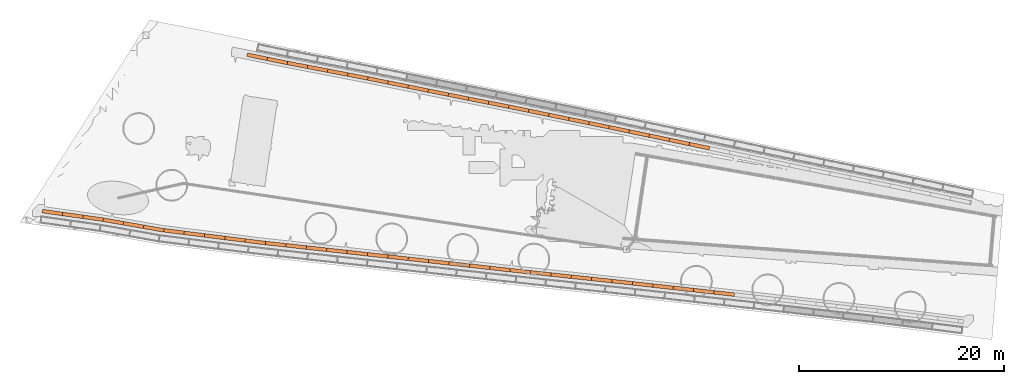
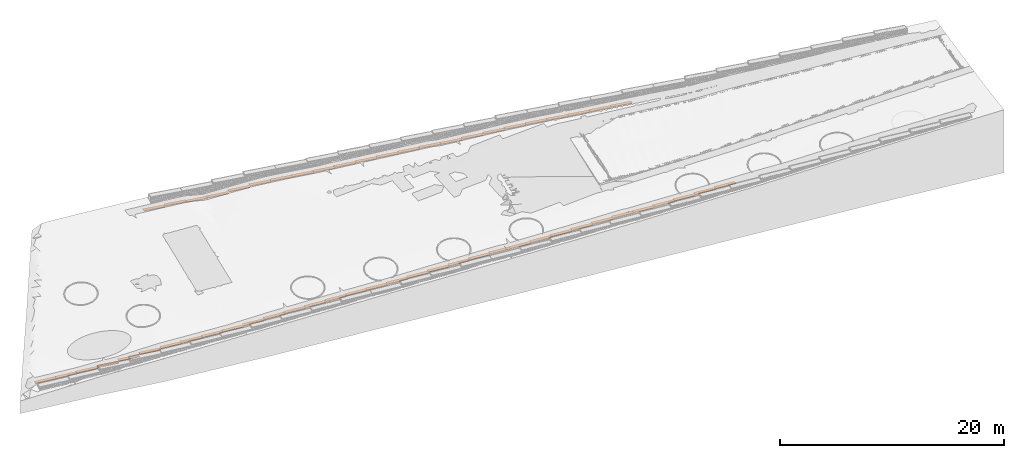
# Not in any storey, part 13 of 33: 57 proxies.
"""IFC4 model written with IfcOpenShell, lengths in metres."""

from ifc_helpers import new_model, si_unit, direction, frame, origin_with_axes, place, context, subcontext, project, spatial, polyline, outline, extrude, material, element, save


model = new_model("IFC4")

# Units and contexts
model_context = context("Model", 3, precision=1e-05, world=origin_with_axes(), true_north=direction((0.0, 1.0)))
body_context = subcontext(model_context, "Body", "Model", "MODEL_VIEW")
ifc_project = project(units=[si_unit("LENGTHUNIT", "METRE"), si_unit("AREAUNIT", "SQUARE_METRE"), si_unit("VOLUMEUNIT", "CUBIC_METRE")], contexts=[model_context])

# Site
site_placement = place(None, origin_with_axes())
site = spatial("IfcSite", under=ifc_project, at=site_placement, Name="Lares · Rua das Mercês · artigo 4771")

# Proxies
ifc_material = material(Name="Brita drenante", Category="stone")
proxy_1_placement = place(site_placement, frame((0.0, 0.0, 13.4738156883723), z_axis=(0.0, 0.0, 1.0), x_axis=(1.0, -1.03767253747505e-17, 0.0)))
element("IfcBuildingElementProxy", 1, at=proxy_1_placement, inside=site, material=ifc_material, Name="Limite north · vala de interceção", ObjectType="Limite north · vala de interceção", PredefinedType="USERDEFINED", context=body_context, shape_type="SweptSolid", body=[
    extrude(outline(polyline([(12.0458830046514, 21.0135119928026), (11.9733673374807, 20.6608911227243), (10.0143625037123, 21.0637559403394), (10.086878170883, 21.4163768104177), (12.0458830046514, 21.0135119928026)])), origin_with_axes(), (0.0, 0.0, 1.0), 0.06),
])
proxy_2_placement = place(site_placement, frame((0.0, 0.0, 13.5828101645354), z_axis=(0.0, 0.0, 1.0), x_axis=(1.0, -1.03767253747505e-17, 0.0)))
element("IfcBuildingElementProxy", 2, at=proxy_2_placement, inside=site, material=ifc_material, Name="Limite north · vala de interceção", ObjectType="Limite north · vala de interceção", PredefinedType="USERDEFINED", context=body_context, shape_type="SweptSolid", body=[
    extrude(outline(polyline([(13.7537541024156, 20.6622922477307), (14.0032633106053, 20.6143063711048), (13.935273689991, 20.2607849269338), (13.684631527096, 20.3089886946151), (13.6823685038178, 20.3094389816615), (11.9733673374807, 20.6608911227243), (12.0458830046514, 21.0135119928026), (13.7537541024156, 20.6622922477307)])), origin_with_axes(), (0.0, 0.0, 1.0), 0.06),
])
proxy_3_placement = place(site_placement, frame((0.0, 0.0, 13.5164708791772), z_axis=(0.0, 0.0, 1.0), x_axis=(1.0, -1.03767253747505e-17, 0.0)))
element("IfcBuildingElementProxy", 3, at=proxy_3_placement, inside=site, material=ifc_material, Name="Limite north · vala de interceção", ObjectType="Limite north · vala de interceção", PredefinedType="USERDEFINED", context=body_context, shape_type="SweptSolid", body=[
    extrude(outline(polyline([(15.9672713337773, 20.2365862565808), (15.899281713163, 19.8830648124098), (13.935273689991, 20.2607849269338), (14.0032633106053, 20.6143063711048), (15.9672713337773, 20.2365862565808)])), origin_with_axes(), (0.0, 0.0, 1.0), 0.06),
])
proxy_4_placement = place(site_placement, frame((0.0, 0.0, 13.558468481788), z_axis=(0.0, 0.0, 1.0), x_axis=(1.0, -1.03767253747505e-17, 0.0)))
element("IfcBuildingElementProxy", 4, at=proxy_4_placement, inside=site, material=ifc_material, Name="Limite north · vala de interceção", ObjectType="Limite north · vala de interceção", PredefinedType="USERDEFINED", context=body_context, shape_type="SweptSolid", body=[
    extrude(outline(polyline([(17.9312793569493, 19.8588661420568), (17.863289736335, 19.5053446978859), (15.899281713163, 19.8830648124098), (15.9672713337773, 20.2365862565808), (17.9312793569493, 19.8588661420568)])), origin_with_axes(), (0.0, 0.0, 1.0), 0.06),
])
proxy_5_placement = place(site_placement, frame((0.0, 0.0, 13.7632660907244), z_axis=(0.0, 0.0, 1.0), x_axis=(1.0, -1.03767253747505e-17, 0.0)))
element("IfcBuildingElementProxy", 5, at=proxy_5_placement, inside=site, material=ifc_material, Name="Limite north · vala de interceção", ObjectType="Limite north · vala de interceção", PredefinedType="USERDEFINED", context=body_context, shape_type="SweptSolid", body=[
    extrude(outline(polyline([(19.8952873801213, 19.4811460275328), (19.827297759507, 19.1276245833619), (17.863289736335, 19.5053446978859), (17.9312793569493, 19.8588661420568), (19.8952873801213, 19.4811460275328)])), origin_with_axes(), (0.0, 0.0, 1.0), 0.06),
])
proxy_6_placement = place(site_placement, frame((0.0, 0.0, 13.9369848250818), z_axis=(0.0, 0.0, 1.0), x_axis=(1.0, -1.03767253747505e-17, 0.0)))
element("IfcBuildingElementProxy", 6, at=proxy_6_placement, inside=site, material=ifc_material, Name="Limite north · vala de interceção", ObjectType="Limite north · vala de interceção", PredefinedType="USERDEFINED", context=body_context, shape_type="SweptSolid", body=[
    extrude(outline(polyline([(21.807899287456, 19.1133104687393), (21.8096475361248, 19.1129652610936), (21.8609432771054, 19.1025723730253), (21.7894571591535, 18.7497413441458), (21.7390346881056, 18.7599573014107), (19.827297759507, 19.1276245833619), (19.8952873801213, 19.4811460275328), (21.807899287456, 19.1133104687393)])), origin_with_axes(), (0.0, 0.0, 1.0), 0.06),
])
proxy_7_placement = place(site_placement, frame((0.0, 0.0, 13.9992573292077), z_axis=(0.0, 0.0, 1.0), x_axis=(1.0, -1.03767253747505e-17, 0.0)))
element("IfcBuildingElementProxy", 7, at=proxy_7_placement, inside=site, material=ifc_material, Name="Limite north · vala de interceção", ObjectType="Limite north · vala de interceção", PredefinedType="USERDEFINED", context=body_context, shape_type="SweptSolid", body=[
    extrude(outline(polyline([(23.8211156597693, 18.7054272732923), (23.7496295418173, 18.3525962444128), (21.7894571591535, 18.7497413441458), (21.8609432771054, 19.1025723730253), (23.8211156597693, 18.7054272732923)])), origin_with_axes(), (0.0, 0.0, 1.0), 0.06),
])
proxy_8_placement = place(site_placement, frame((0.0, 0.0, 14.0174718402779), z_axis=(0.0, 0.0, 1.0), x_axis=(1.0, -1.03767253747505e-17, 0.0)))
element("IfcBuildingElementProxy", 8, at=proxy_8_placement, inside=site, material=ifc_material, Name="Limite north · vala de interceção", ObjectType="Limite north · vala de interceção", PredefinedType="USERDEFINED", context=body_context, shape_type="SweptSolid", body=[
    extrude(outline(polyline([(25.7812880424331, 18.3082821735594), (25.7098019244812, 17.9554511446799), (23.7496295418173, 18.3525962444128), (23.8211156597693, 18.7054272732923), (25.7812880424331, 18.3082821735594)])), origin_with_axes(), (0.0, 0.0, 1.0), 0.06),
])
proxy_9_placement = place(site_placement, frame((0.0, 0.0, 14.0656124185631), z_axis=(0.0, 0.0, 1.0), x_axis=(1.0, -1.03767253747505e-17, 0.0)))
element("IfcBuildingElementProxy", 9, at=proxy_9_placement, inside=site, material=ifc_material, Name="Limite north · vala de interceção", ObjectType="Limite north · vala de interceção", PredefinedType="USERDEFINED", context=body_context, shape_type="SweptSolid", body=[
    extrude(outline(polyline([(27.565370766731, 17.9468141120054), (27.7410391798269, 17.9117680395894), (27.6706066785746, 17.5587251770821), (27.4946747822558, 17.593823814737), (27.494147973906, 17.5939297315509), (25.7098019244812, 17.9554511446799), (25.7812880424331, 18.3082821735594), (27.565370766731, 17.9468141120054)])), origin_with_axes(), (0.0, 0.0, 1.0), 0.06),
])
proxy_10_placement = place(site_placement, frame((0.0, 0.0, 14.1510970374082), z_axis=(0.0, 0.0, 1.0), x_axis=(1.0, -1.03767253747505e-17, 0.0)))
element("IfcBuildingElementProxy", 10, at=proxy_10_placement, inside=site, material=ifc_material, Name="Limite north · vala de interceção", ObjectType="Limite north · vala de interceção", PredefinedType="USERDEFINED", context=body_context, shape_type="SweptSolid", body=[
    extrude(outline(polyline([(29.7023884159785, 17.5204763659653), (29.6319559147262, 17.167433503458), (27.6706066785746, 17.5587251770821), (27.7410391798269, 17.9117680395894), (29.7023884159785, 17.5204763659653)])), origin_with_axes(), (0.0, 0.0, 1.0), 0.06),
])
proxy_11_placement = place(site_placement, frame((0.0, 0.0, 14.2234581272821), z_axis=(0.0, 0.0, 1.0), x_axis=(1.0, -1.03767253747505e-17, 0.0)))
element("IfcBuildingElementProxy", 11, at=proxy_11_placement, inside=site, material=ifc_material, Name="Limite north · vala de interceção", ObjectType="Limite north · vala de interceção", PredefinedType="USERDEFINED", context=body_context, shape_type="SweptSolid", body=[
    extrude(outline(polyline([(31.6637376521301, 17.1291846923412), (31.5933051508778, 16.7761418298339), (29.6319559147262, 17.167433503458), (29.7023884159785, 17.5204763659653), (31.6637376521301, 17.1291846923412)])), origin_with_axes(), (0.0, 0.0, 1.0), 0.06),
])
proxy_12_placement = place(site_placement, frame((0.0, 0.0, 14.2939755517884), z_axis=(0.0, 0.0, 1.0), x_axis=(1.0, -1.03767253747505e-17, 0.0)))
element("IfcBuildingElementProxy", 12, at=proxy_12_placement, inside=site, material=ifc_material, Name="Limite north · vala de interceção", ObjectType="Limite north · vala de interceção", PredefinedType="USERDEFINED", context=body_context, shape_type="SweptSolid", body=[
    extrude(outline(polyline([(33.6250868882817, 16.7378930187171), (33.5546543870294, 16.3848501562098), (31.5933051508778, 16.7761418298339), (31.6637376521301, 17.1291846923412), (33.6250868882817, 16.7378930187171)])), origin_with_axes(), (0.0, 0.0, 1.0), 0.06),
])
proxy_13_placement = place(site_placement, frame((0.0, 0.0, 14.3644929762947), z_axis=(0.0, 0.0, 1.0), x_axis=(1.0, -1.03767253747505e-17, 0.0)))
element("IfcBuildingElementProxy", 13, at=proxy_13_placement, inside=site, material=ifc_material, Name="Limite north · vala de interceção", ObjectType="Limite north · vala de interceção", PredefinedType="USERDEFINED", context=body_context, shape_type="SweptSolid", body=[
    extrude(outline(polyline([(35.5864361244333, 16.346601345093), (35.5160036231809, 15.9935584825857), (33.5546543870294, 16.3848501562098), (33.6250868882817, 16.7378930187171), (35.5864361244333, 16.346601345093)])), origin_with_axes(), (0.0, 0.0, 1.0), 0.06),
])
proxy_14_placement = place(site_placement, frame((0.0, 0.0, 14.4349426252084), z_axis=(0.0, 0.0, 1.0), x_axis=(1.0, -1.03767253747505e-17, 0.0)))
element("IfcBuildingElementProxy", 14, at=proxy_14_placement, inside=site, material=ifc_material, Name="Limite north · vala de interceção", ObjectType="Limite north · vala de interceção", PredefinedType="USERDEFINED", context=body_context, shape_type="SweptSolid", body=[
    extrude(outline(polyline([(36.3861439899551, 16.187058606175), (36.3870338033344, 16.1868787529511), (37.5474916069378, 15.9492741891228), (37.4752794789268, 15.5965910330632), (36.3152663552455, 15.83410454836), (35.5160036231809, 15.9935584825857), (35.5864361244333, 16.346601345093), (36.3861439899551, 16.187058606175)])), origin_with_axes(), (0.0, 0.0, 1.0), 0.06),
])
proxy_15_placement = place(site_placement, frame((0.0, 0.0, 14.437421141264), z_axis=(0.0, 0.0, 1.0), x_axis=(1.0, -1.03767253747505e-17, 0.0)))
element("IfcBuildingElementProxy", 15, at=proxy_15_placement, inside=site, material=ifc_material, Name="Limite north · vala de interceção", ObjectType="Limite north · vala de interceção", PredefinedType="USERDEFINED", context=body_context, shape_type="SweptSolid", body=[
    extrude(outline(polyline([(39.5068424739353, 15.548095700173), (39.4346303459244, 15.1954125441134), (37.4752794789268, 15.5965910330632), (37.5474916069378, 15.9492741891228), (39.5068424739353, 15.548095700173)])), origin_with_axes(), (0.0, 0.0, 1.0), 0.06),
])
proxy_16_placement = place(site_placement, frame((0.0, 0.0, 14.5450334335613), z_axis=(0.0, 0.0, 1.0), x_axis=(1.0, -1.03767253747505e-17, 0.0)))
element("IfcBuildingElementProxy", 16, at=proxy_16_placement, inside=site, material=ifc_material, Name="Limite north · vala de interceção", ObjectType="Limite north · vala de interceção", PredefinedType="USERDEFINED", context=body_context, shape_type="SweptSolid", body=[
    extrude(outline(polyline([(41.4661933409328, 15.1469172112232), (41.3939812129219, 14.7942340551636), (39.4346303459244, 15.1954125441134), (39.5068424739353, 15.548095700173), (41.4661933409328, 15.1469172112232)])), origin_with_axes(), (0.0, 0.0, 1.0), 0.06),
])
proxy_17_placement = place(site_placement, frame((0.0, 0.0, 14.6526457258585), z_axis=(0.0, 0.0, 1.0), x_axis=(1.0, -1.03767253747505e-17, 0.0)))
element("IfcBuildingElementProxy", 17, at=proxy_17_placement, inside=site, material=ifc_material, Name="Limite north · vala de interceção", ObjectType="Limite north · vala de interceção", PredefinedType="USERDEFINED", context=body_context, shape_type="SweptSolid", body=[
    extrude(outline(polyline([(43.4255442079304, 14.7457387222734), (43.3533320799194, 14.3930555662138), (41.3939812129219, 14.7942340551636), (41.4661933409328, 15.1469172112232), (43.4255442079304, 14.7457387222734)])), origin_with_axes(), (0.0, 0.0, 1.0), 0.06),
])
proxy_18_placement = place(site_placement, frame((0.0, 0.0, 14.7427260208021), z_axis=(0.0, 0.0, 1.0), x_axis=(1.0, -1.03767253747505e-17, 0.0)))
element("IfcBuildingElementProxy", 18, at=proxy_18_placement, inside=site, material=ifc_material, Name="Limite north · vala de interceção", ObjectType="Limite north · vala de interceção", PredefinedType="USERDEFINED", context=body_context, shape_type="SweptSolid", body=[
    extrude(outline(polyline([(45.3848950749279, 14.3445602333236), (45.3126829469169, 13.991877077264), (43.3533320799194, 14.3930555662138), (43.4255442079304, 14.7457387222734), (45.3848950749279, 14.3445602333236)])), origin_with_axes(), (0.0, 0.0, 1.0), 0.06),
])
proxy_19_placement = place(site_placement, frame((0.0, 0.0, 14.8053566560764), z_axis=(0.0, 0.0, 1.0), x_axis=(1.0, -1.03767253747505e-17, 0.0)))
element("IfcBuildingElementProxy", 19, at=proxy_19_placement, inside=site, material=ifc_material, Name="Limite north · vala de interceção", ObjectType="Limite north · vala de interceção", PredefinedType="USERDEFINED", context=body_context, shape_type="SweptSolid", body=[
    extrude(outline(polyline([(45.8690664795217, 14.2454257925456), (45.8699313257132, 14.2452465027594), (47.3436109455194, 13.9359676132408), (47.2696691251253, 13.5836430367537), (45.7964217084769, 13.8928312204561), (45.3126829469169, 13.991877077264), (45.3848950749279, 14.3445602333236), (45.8690664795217, 14.2454257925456)])), origin_with_axes(), (0.0, 0.0, 1.0), 0.06),
])
proxy_20_placement = place(site_placement, frame((0.0, 0.0, 14.8355579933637), z_axis=(0.0, 0.0, 1.0), x_axis=(1.0, -1.03767253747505e-17, 0.0)))
element("IfcBuildingElementProxy", 20, at=proxy_20_placement, inside=site, material=ifc_material, Name="Limite north · vala de interceção", ObjectType="Limite north · vala de interceção", PredefinedType="USERDEFINED", context=body_context, shape_type="SweptSolid", body=[
    extrude(outline(polyline([(49.3009697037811, 13.5251797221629), (49.227027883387, 13.1728551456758), (47.2696691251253, 13.5836430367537), (47.3436109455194, 13.9359676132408), (49.3009697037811, 13.5251797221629)])), origin_with_axes(), (0.0, 0.0, 1.0), 0.06),
])
proxy_21_placement = place(site_placement, frame((0.0, 0.0, 14.862859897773), z_axis=(0.0, 0.0, 1.0), x_axis=(1.0, -1.03767253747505e-17, 0.0)))
element("IfcBuildingElementProxy", 21, at=proxy_21_placement, inside=site, material=ifc_material, Name="Limite north · vala de interceção", ObjectType="Limite north · vala de interceção", PredefinedType="USERDEFINED", context=body_context, shape_type="SweptSolid", body=[
    extrude(outline(polyline([(51.2583284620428, 13.1143918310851), (51.1843866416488, 12.762067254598), (49.227027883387, 13.1728551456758), (49.3009697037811, 13.5251797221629), (51.2583284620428, 13.1143918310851)])), origin_with_axes(), (0.0, 0.0, 1.0), 0.06),
])
proxy_22_placement = place(site_placement, frame((0.0, 0.0, 14.9166186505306), z_axis=(0.0, 0.0, 1.0), x_axis=(1.0, -1.03767253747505e-17, 0.0)))
element("IfcBuildingElementProxy", 22, at=proxy_22_placement, inside=site, material=ifc_material, Name="Limite north · vala de interceção", ObjectType="Limite north · vala de interceção", PredefinedType="USERDEFINED", context=body_context, shape_type="SweptSolid", body=[
    extrude(outline(polyline([(53.2156872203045, 12.7036039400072), (53.1417453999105, 12.3512793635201), (51.1843866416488, 12.762067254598), (51.2583284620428, 13.1143918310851), (53.2156872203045, 12.7036039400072)])), origin_with_axes(), (0.0, 0.0, 1.0), 0.06),
])
proxy_23_placement = place(site_placement, frame((0.0, 0.0, 14.9682467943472), z_axis=(0.0, 0.0, 1.0), x_axis=(1.0, -1.03767253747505e-17, 0.0)))
element("IfcBuildingElementProxy", 23, at=proxy_23_placement, inside=site, material=ifc_material, Name="Limite north · vala de interceção", ObjectType="Limite north · vala de interceção", PredefinedType="USERDEFINED", context=body_context, shape_type="SweptSolid", body=[
    extrude(outline(polyline([(55.1730459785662, 12.2928160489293), (55.0991041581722, 11.9404914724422), (53.1417453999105, 12.3512793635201), (53.2156872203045, 12.7036039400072), (55.1730459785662, 12.2928160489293)])), origin_with_axes(), (0.0, 0.0, 1.0), 0.06),
])
proxy_24_placement = place(site_placement, frame((0.0, 0.0, 10.921681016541), z_axis=(0.0, 0.0, 1.0), x_axis=(1.0, -1.03767253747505e-17, 0.0)))
element("IfcBuildingElementProxy", 24, at=proxy_24_placement, inside=site, material=ifc_material, Name="Limite south · vala de interceção", ObjectType="Limite south · vala de interceção", PredefinedType="USERDEFINED", context=body_context, shape_type="SweptSolid", body=[
    extrude(outline(polyline([(-7.92506020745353, 5.88610903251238), (-7.97522409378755, 5.52962118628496), (-9.95571212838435, 5.80830944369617), (-9.90554824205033, 6.1647972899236), (-7.92506020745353, 5.88610903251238)])), origin_with_axes(), (0.0, 0.0, 1.0), 0.06),
])
proxy_25_placement = place(site_placement, frame((0.0, 0.0, 10.9393821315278), z_axis=(0.0, 0.0, 1.0), x_axis=(1.0, -1.03767253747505e-17, 0.0)))
element("IfcBuildingElementProxy", 25, at=proxy_25_placement, inside=site, material=ifc_material, Name="Limite south · vala de interceção", ObjectType="Limite south · vala de interceção", PredefinedType="USERDEFINED", context=body_context, shape_type="SweptSolid", body=[
    extrude(outline(polyline([(-5.94457217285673, 5.60742077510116), (-5.99473605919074, 5.25093292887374), (-7.97522409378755, 5.52962118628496), (-7.92506020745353, 5.88610903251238), (-5.94457217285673, 5.60742077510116)])), origin_with_axes(), (0.0, 0.0, 1.0), 0.06),
])
proxy_26_placement = place(site_placement, frame((0.0, 0.0, 10.9819497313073), z_axis=(0.0, 0.0, 1.0), x_axis=(1.0, -1.03767253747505e-17, 0.0)))
element("IfcBuildingElementProxy", 26, at=proxy_26_placement, inside=site, material=ifc_material, Name="Limite south · vala de interceção", ObjectType="Limite south · vala de interceção", PredefinedType="USERDEFINED", context=body_context, shape_type="SweptSolid", body=[
    extrude(outline(polyline([(-4.0119916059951, 5.33547391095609), (-4.0057745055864, 5.33448790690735), (-3.95813205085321, 5.32607551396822), (-4.02073013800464, 4.97155967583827), (-4.06527266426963, 4.97942470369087), (-5.99473605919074, 5.25093292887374), (-5.94457217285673, 5.60742077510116), (-4.0119916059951, 5.33547391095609)])), origin_with_axes(), (0.0, 0.0, 1.0), 0.06),
])
proxy_27_placement = place(site_placement, frame((0.0, 0.0, 11.0965665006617), z_axis=(0.0, 0.0, 1.0), x_axis=(1.0, -1.03767253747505e-17, 0.0)))
element("IfcBuildingElementProxy", 27, at=proxy_27_placement, inside=site, material=ifc_material, Name="Limite south · vala de interceção", ObjectType="Limite south · vala de interceção", PredefinedType="USERDEFINED", context=body_context, shape_type="SweptSolid", body=[
    extrude(outline(polyline([(-1.98859961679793, 4.97830836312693), (-2.05119770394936, 4.62379252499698), (-4.02073013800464, 4.97155967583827), (-3.95813205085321, 5.32607551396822), (-1.98859961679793, 4.97830836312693)])), origin_with_axes(), (0.0, 0.0, 1.0), 0.06),
])
proxy_28_placement = place(site_placement, frame((0.0, 0.0, 11.314682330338), z_axis=(0.0, 0.0, 1.0), x_axis=(1.0, -1.03767253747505e-17, 0.0)))
element("IfcBuildingElementProxy", 28, at=proxy_28_placement, inside=site, material=ifc_material, Name="Limite south · vala de interceção", ObjectType="Limite south · vala de interceção", PredefinedType="USERDEFINED", context=body_context, shape_type="SweptSolid", body=[
    extrude(outline(polyline([(-0.019067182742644, 4.63054121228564), (-0.081665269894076, 4.27602537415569), (-2.05119770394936, 4.62379252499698), (-1.98859961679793, 4.97830836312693), (-0.019067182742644, 4.63054121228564)])), origin_with_axes(), (0.0, 0.0, 1.0), 0.06),
])
proxy_29_placement = place(site_placement, frame((0.0, 0.0, 11.5619240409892), z_axis=(0.0, 0.0, 1.0), x_axis=(1.0, -1.03767253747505e-17, 0.0)))
element("IfcBuildingElementProxy", 29, at=proxy_29_placement, inside=site, material=ifc_material, Name="Limite south · vala de interceção", ObjectType="Limite south · vala de interceção", PredefinedType="USERDEFINED", context=body_context, shape_type="SweptSolid", body=[
    extrude(outline(polyline([(1.69864220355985, 4.32723932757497), (1.94361428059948, 4.29622234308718), (1.89839413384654, 3.93907372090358), (1.64906149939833, 3.97064281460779), (1.64037252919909, 3.97195920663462), (-0.0816652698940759, 4.27602537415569), (-0.019067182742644, 4.63054121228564), (1.69864220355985, 4.32723932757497)])), origin_with_axes(), (0.0, 0.0, 1.0), 0.06),
])
proxy_30_placement = place(site_placement, frame((0.0, 0.0, 11.7044998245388), z_axis=(0.0, 0.0, 1.0), x_axis=(1.0, -1.03767253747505e-17, 0.0)))
element("IfcBuildingElementProxy", 30, at=proxy_30_placement, inside=site, material=ifc_material, Name="Limite south · vala de interceção", ObjectType="Limite south · vala de interceção", PredefinedType="USERDEFINED", context=body_context, shape_type="SweptSolid", body=[
    extrude(outline(polyline([(3.92777329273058, 4.04499930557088), (3.88255314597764, 3.68785068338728), (1.89839413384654, 3.93907372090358), (1.94361428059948, 4.29622234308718), (3.92777329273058, 4.04499930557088)])), origin_with_axes(), (0.0, 0.0, 1.0), 0.06),
])
proxy_31_placement = place(site_placement, frame((0.0, 0.0, 11.7661044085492), z_axis=(0.0, 0.0, 1.0), x_axis=(1.0, -1.03767253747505e-17, 0.0)))
element("IfcBuildingElementProxy", 31, at=proxy_31_placement, inside=site, material=ifc_material, Name="Limite south · vala de interceção", ObjectType="Limite south · vala de interceção", PredefinedType="USERDEFINED", context=body_context, shape_type="SweptSolid", body=[
    extrude(outline(polyline([(5.91193230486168, 3.79377626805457), (5.86671215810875, 3.43662764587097), (3.88255314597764, 3.68785068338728), (3.92777329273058, 4.04499930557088), (5.91193230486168, 3.79377626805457)])), origin_with_axes(), (0.0, 0.0, 1.0), 0.06),
])
proxy_32_placement = place(site_placement, frame((0.0, 0.0, 11.8277089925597), z_axis=(0.0, 0.0, 1.0), x_axis=(1.0, -1.03767253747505e-17, 0.0)))
element("IfcBuildingElementProxy", 32, at=proxy_32_placement, inside=site, material=ifc_material, Name="Limite south · vala de interceção", ObjectType="Limite south · vala de interceção", PredefinedType="USERDEFINED", context=body_context, shape_type="SweptSolid", body=[
    extrude(outline(polyline([(7.89609131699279, 3.54255323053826), (7.85087117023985, 3.18540460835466), (5.86671215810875, 3.43662764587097), (5.91193230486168, 3.79377626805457), (7.89609131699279, 3.54255323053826)])), origin_with_axes(), (0.0, 0.0, 1.0), 0.06),
])
proxy_33_placement = place(site_placement, frame((0.0, 0.0, 11.8893135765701), z_axis=(0.0, 0.0, 1.0), x_axis=(1.0, -1.03767253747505e-17, 0.0)))
element("IfcBuildingElementProxy", 33, at=proxy_33_placement, inside=site, material=ifc_material, Name="Limite south · vala de interceção", ObjectType="Limite south · vala de interceção", PredefinedType="USERDEFINED", context=body_context, shape_type="SweptSolid", body=[
    extrude(outline(polyline([(9.88025032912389, 3.29133019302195), (9.83503018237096, 2.93418157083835), (7.85087117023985, 3.18540460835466), (7.89609131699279, 3.54255323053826), (9.88025032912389, 3.29133019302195)])), origin_with_axes(), (0.0, 0.0, 1.0), 0.06),
])
proxy_34_placement = place(site_placement, frame((0.0, 0.0, 12.0238253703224), z_axis=(0.0, 0.0, 1.0), x_axis=(1.0, -1.03767253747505e-17, 0.0)))
element("IfcBuildingElementProxy", 34, at=proxy_34_placement, inside=site, material=ifc_material, Name="Limite south · vala de interceção", ObjectType="Limite south · vala de interceção", PredefinedType="USERDEFINED", context=body_context, shape_type="SweptSolid", body=[
    extrude(outline(polyline([(11.2335174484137, 3.11998713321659), (11.8627287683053, 3.05061714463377), (11.8232781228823, 2.6927852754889), (11.192623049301, 2.76231443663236), (11.189738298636, 2.762656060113), (9.83503018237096, 2.93418157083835), (9.88025032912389, 3.29133019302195), (11.2335174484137, 3.11998713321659)])), origin_with_axes(), (0.0, 0.0, 1.0), 0.06),
])
proxy_35_placement = place(site_placement, frame((0.0, 0.0, 12.1612662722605), z_axis=(0.0, 0.0, 1.0), x_axis=(1.0, -1.03767253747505e-17, 0.0)))
element("IfcBuildingElementProxy", 35, at=proxy_35_placement, inside=site, material=ifc_material, Name="Limite south · vala de interceção", ObjectType="Limite south · vala de interceção", PredefinedType="USERDEFINED", context=body_context, shape_type="SweptSolid", body=[
    extrude(outline(polyline([(13.8506835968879, 2.83144689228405), (13.8112329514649, 2.47361502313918), (11.8232781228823, 2.6927852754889), (11.8627287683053, 3.05061714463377), (13.8506835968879, 2.83144689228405)])), origin_with_axes(), (0.0, 0.0, 1.0), 0.06),
])
proxy_36_placement = place(site_placement, frame((0.0, 0.0, 12.2467318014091), z_axis=(0.0, 0.0, 1.0), x_axis=(1.0, -1.03767253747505e-17, 0.0)))
element("IfcBuildingElementProxy", 36, at=proxy_36_placement, inside=site, material=ifc_material, Name="Limite south · vala de interceção", ObjectType="Limite south · vala de interceção", PredefinedType="USERDEFINED", context=body_context, shape_type="SweptSolid", body=[
    extrude(outline(polyline([(15.8386384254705, 2.61227663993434), (15.7991877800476, 2.25444477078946), (13.8112329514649, 2.47361502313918), (13.8506835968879, 2.83144689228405), (15.8386384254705, 2.61227663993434)])), origin_with_axes(), (0.0, 0.0, 1.0), 0.06),
])
proxy_37_placement = place(site_placement, frame((0.0, 0.0, 12.3321973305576), z_axis=(0.0, 0.0, 1.0), x_axis=(1.0, -1.03767253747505e-17, 0.0)))
element("IfcBuildingElementProxy", 37, at=proxy_37_placement, inside=site, material=ifc_material, Name="Limite south · vala de interceção", ObjectType="Limite south · vala de interceção", PredefinedType="USERDEFINED", context=body_context, shape_type="SweptSolid", body=[
    extrude(outline(polyline([(17.8265932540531, 2.39310638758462), (17.7871426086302, 2.03527451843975), (15.7991877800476, 2.25444477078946), (15.8386384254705, 2.61227663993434), (17.8265932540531, 2.39310638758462)])), origin_with_axes(), (0.0, 0.0, 1.0), 0.06),
])
proxy_38_placement = place(site_placement, frame((0.0, 0.0, 12.4130196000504), z_axis=(0.0, 0.0, 1.0), x_axis=(1.0, -1.03767253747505e-17, 0.0)))
element("IfcBuildingElementProxy", 38, at=proxy_38_placement, inside=site, material=ifc_material, Name="Limite south · vala de interceção", ObjectType="Limite south · vala de interceção", PredefinedType="USERDEFINED", context=body_context, shape_type="SweptSolid", body=[
    extrude(outline(polyline([(19.8145480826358, 2.1739361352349), (19.7750974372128, 1.81610426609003), (17.7871426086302, 2.03527451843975), (17.8265932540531, 2.39310638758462), (19.8145480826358, 2.1739361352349)])), origin_with_axes(), (0.0, 0.0, 1.0), 0.06),
])
proxy_39_placement = place(site_placement, frame((0.0, 0.0, 12.4859319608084), z_axis=(0.0, 0.0, 1.0), x_axis=(1.0, -1.03767253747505e-17, 0.0)))
element("IfcBuildingElementProxy", 39, at=proxy_39_placement, inside=site, material=ifc_material, Name="Limite south · vala de interceção", ObjectType="Limite south · vala de interceção", PredefinedType="USERDEFINED", context=body_context, shape_type="SweptSolid", body=[
    extrude(outline(polyline([(21.8025029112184, 1.95476588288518), (21.7630522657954, 1.59693401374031), (19.7750974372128, 1.81610426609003), (19.8145480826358, 2.1739361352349), (21.8025029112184, 1.95476588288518)])), origin_with_axes(), (0.0, 0.0, 1.0), 0.06),
])
proxy_40_placement = place(site_placement, frame((0.0, 0.0, 12.5417426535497), z_axis=(0.0, 0.0, 1.0), x_axis=(1.0, -1.03767253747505e-17, 0.0)))
element("IfcBuildingElementProxy", 40, at=proxy_40_placement, inside=site, material=ifc_material, Name="Limite south · vala de interceção", ObjectType="Limite south · vala de interceção", PredefinedType="USERDEFINED", context=body_context, shape_type="SweptSolid", body=[
    extrude(outline(polyline([(23.621795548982, 1.75419048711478), (23.6220143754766, 1.7541662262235), (23.7906536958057, 1.73536508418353), (23.7507653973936, 1.3775817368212), (23.582235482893, 1.39637068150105), (21.7630522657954, 1.59693401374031), (21.8025029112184, 1.95476588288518), (23.621795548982, 1.75419048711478)])), origin_with_axes(), (0.0, 0.0, 1.0), 0.06),
])
proxy_41_placement = place(site_placement, frame((0.0, 0.0, 12.6188147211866), z_axis=(0.0, 0.0, 1.0), x_axis=(1.0, -1.03767253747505e-17, 0.0)))
element("IfcBuildingElementProxy", 41, at=proxy_41_placement, inside=site, material=ifc_material, Name="Limite south · vala de interceção", ObjectType="Limite south · vala de interceção", PredefinedType="USERDEFINED", context=body_context, shape_type="SweptSolid", body=[
    extrude(outline(polyline([(25.7783389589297, 1.5137634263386), (25.7384506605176, 1.15598007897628), (23.7507653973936, 1.3775817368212), (23.7906536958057, 1.73536508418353), (25.7783389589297, 1.5137634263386)])), origin_with_axes(), (0.0, 0.0, 1.0), 0.06),
])
proxy_42_placement = place(site_placement, frame((0.0, 0.0, 12.7191830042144), z_axis=(0.0, 0.0, 1.0), x_axis=(1.0, -1.03767253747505e-17, 0.0)))
element("IfcBuildingElementProxy", 42, at=proxy_42_placement, inside=site, material=ifc_material, Name="Limite south · vala de interceção", ObjectType="Limite south · vala de interceção", PredefinedType="USERDEFINED", context=body_context, shape_type="SweptSolid", body=[
    extrude(outline(polyline([(27.7660242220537, 1.29216176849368), (27.7261359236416, 0.934378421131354), (25.7384506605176, 1.15598007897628), (25.7783389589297, 1.5137634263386), (27.7660242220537, 1.29216176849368)])), origin_with_axes(), (0.0, 0.0, 1.0), 0.06),
])
proxy_43_placement = place(site_placement, frame((0.0, 0.0, 12.8193544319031), z_axis=(0.0, 0.0, 1.0), x_axis=(1.0, -1.03767253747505e-17, 0.0)))
element("IfcBuildingElementProxy", 43, at=proxy_43_placement, inside=site, material=ifc_material, Name="Limite south · vala de interceção", ObjectType="Limite south · vala de interceção", PredefinedType="USERDEFINED", context=body_context, shape_type="SweptSolid", body=[
    extrude(outline(polyline([(29.7537094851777, 1.07056011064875), (29.7138211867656, 0.712776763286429), (27.7261359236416, 0.934378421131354), (27.7660242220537, 1.29216176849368), (29.7537094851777, 1.07056011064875)])), origin_with_axes(), (0.0, 0.0, 1.0), 0.06),
])
proxy_44_placement = place(site_placement, frame((0.0, 0.0, 12.9183907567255), z_axis=(0.0, 0.0, 1.0), x_axis=(1.0, -1.03767253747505e-17, 0.0)))
element("IfcBuildingElementProxy", 44, at=proxy_44_placement, inside=site, material=ifc_material, Name="Limite south · vala de interceção", ObjectType="Limite south · vala de interceção", PredefinedType="USERDEFINED", context=body_context, shape_type="SweptSolid", body=[
    extrude(outline(polyline([(31.7413947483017, 0.848958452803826), (31.7015064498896, 0.491175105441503), (29.7138211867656, 0.712776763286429), (29.7537094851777, 1.07056011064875), (31.7413947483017, 0.848958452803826)])), origin_with_axes(), (0.0, 0.0, 1.0), 0.06),
])
proxy_45_placement = place(site_placement, frame((0.0, 0.0, 13.0174270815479), z_axis=(0.0, 0.0, 1.0), x_axis=(1.0, -1.03767253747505e-17, 0.0)))
element("IfcBuildingElementProxy", 45, at=proxy_45_placement, inside=site, material=ifc_material, Name="Limite south · vala de interceção", ObjectType="Limite south · vala de interceção", PredefinedType="USERDEFINED", context=body_context, shape_type="SweptSolid", body=[
    extrude(outline(polyline([(33.7290800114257, 0.627356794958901), (33.6891917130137, 0.269573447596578), (31.7015064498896, 0.491175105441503), (31.7413947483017, 0.848958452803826), (33.7290800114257, 0.627356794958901)])), origin_with_axes(), (0.0, 0.0, 1.0), 0.06),
])
proxy_46_placement = place(site_placement, frame((0.0, 0.0, 13.1164634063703), z_axis=(0.0, 0.0, 1.0), x_axis=(1.0, -1.03767253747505e-17, 0.0)))
element("IfcBuildingElementProxy", 46, at=proxy_46_placement, inside=site, material=ifc_material, Name="Limite south · vala de interceção", ObjectType="Limite south · vala de interceção", PredefinedType="USERDEFINED", context=body_context, shape_type="SweptSolid", body=[
    extrude(outline(polyline([(35.2866373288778, 0.453708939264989), (35.7162568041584, 0.407488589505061), (35.6777486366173, 0.0495540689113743), (35.2477840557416, 0.095811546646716), (35.247093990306, 0.0958871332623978), (33.6891917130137, 0.269573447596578), (33.7290800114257, 0.627356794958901), (35.2866373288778, 0.453708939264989)])), origin_with_axes(), (0.0, 0.0, 1.0), 0.06),
])
proxy_47_placement = place(site_placement, frame((0.0, 0.0, 13.1293433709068), z_axis=(0.0, 0.0, 1.0), x_axis=(1.0, -1.03767253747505e-17, 0.0)))
element("IfcBuildingElementProxy", 47, at=proxy_47_placement, inside=site, material=ifc_material, Name="Limite south · vala de interceção", ObjectType="Limite south · vala de interceção", PredefinedType="USERDEFINED", context=body_context, shape_type="SweptSolid", body=[
    extrude(outline(polyline([(37.7047819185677, 0.19355432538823), (37.6662737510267, -0.164380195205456), (35.6777486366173, 0.0495540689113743), (35.7162568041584, 0.407488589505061), (37.7047819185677, 0.19355432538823)])), origin_with_axes(), (0.0, 0.0, 1.0), 0.06),
])
proxy_48_placement = place(site_placement, frame((0.0, 0.0, 13.2167736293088), z_axis=(0.0, 0.0, 1.0), x_axis=(1.0, -1.03767253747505e-17, 0.0)))
element("IfcBuildingElementProxy", 48, at=proxy_48_placement, inside=site, material=ifc_material, Name="Limite south · vala de interceção", ObjectType="Limite south · vala de interceção", PredefinedType="USERDEFINED", context=body_context, shape_type="SweptSolid", body=[
    extrude(outline(polyline([(39.6933070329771, -0.0203799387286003), (39.6547988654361, -0.378314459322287), (37.6662737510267, -0.164380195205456), (37.7047819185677, 0.19355432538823), (39.6933070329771, -0.0203799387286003)])), origin_with_axes(), (0.0, 0.0, 1.0), 0.06),
])
proxy_49_placement = place(site_placement, frame((0.0, 0.0, 13.3080985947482), z_axis=(0.0, 0.0, 1.0), x_axis=(1.0, -1.03767253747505e-17, 0.0)))
element("IfcBuildingElementProxy", 49, at=proxy_49_placement, inside=site, material=ifc_material, Name="Limite south · vala de interceção", ObjectType="Limite south · vala de interceção", PredefinedType="USERDEFINED", context=body_context, shape_type="SweptSolid", body=[
    extrude(outline(polyline([(41.6818321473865, -0.234314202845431), (41.6433239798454, -0.592248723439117), (39.6547988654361, -0.378314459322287), (39.6933070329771, -0.0203799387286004), (41.6818321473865, -0.234314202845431)])), origin_with_axes(), (0.0, 0.0, 1.0), 0.06),
])
proxy_50_placement = place(site_placement, frame((0.0, 0.0, 13.4083087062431), z_axis=(0.0, 0.0, 1.0), x_axis=(1.0, -1.03767253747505e-17, 0.0)))
element("IfcBuildingElementProxy", 50, at=proxy_50_placement, inside=site, material=ifc_material, Name="Limite south · vala de interceção", ObjectType="Limite south · vala de interceção", PredefinedType="USERDEFINED", context=body_context, shape_type="SweptSolid", body=[
    extrude(outline(polyline([(43.6703572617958, -0.448248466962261), (43.6318490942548, -0.806182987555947), (41.6433239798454, -0.592248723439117), (41.6818321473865, -0.234314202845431), (43.6703572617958, -0.448248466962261)])), origin_with_axes(), (0.0, 0.0, 1.0), 0.06),
])
proxy_51_placement = place(site_placement, frame((0.0, 0.0, 13.508518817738), z_axis=(0.0, 0.0, 1.0), x_axis=(1.0, -1.03767253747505e-17, 0.0)))
element("IfcBuildingElementProxy", 51, at=proxy_51_placement, inside=site, material=ifc_material, Name="Limite south · vala de interceção", ObjectType="Limite south · vala de interceção", PredefinedType="USERDEFINED", context=body_context, shape_type="SweptSolid", body=[
    extrude(outline(polyline([(45.6588823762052, -0.662182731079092), (45.6203742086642, -1.02011725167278), (43.6318490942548, -0.806182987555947), (43.6703572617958, -0.448248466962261), (45.6588823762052, -0.662182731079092)])), origin_with_axes(), (0.0, 0.0, 1.0), 0.06),
])
proxy_52_placement = place(site_placement, frame((0.0, 0.0, 13.6087289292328), z_axis=(0.0, 0.0, 1.0), x_axis=(1.0, -1.03767253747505e-17, 0.0)))
element("IfcBuildingElementProxy", 52, at=proxy_52_placement, inside=site, material=ifc_material, Name="Limite south · vala de interceção", ObjectType="Limite south · vala de interceção", PredefinedType="USERDEFINED", context=body_context, shape_type="SweptSolid", body=[
    extrude(outline(polyline([(47.2895826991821, -0.837620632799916), (47.2901932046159, -0.837687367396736), (47.6478845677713, -0.877404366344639), (47.6081553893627, -1.23520541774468), (47.2507692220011, -1.19552230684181), (45.6203742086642, -1.02011725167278), (45.6588823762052, -0.662182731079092), (47.2895826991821, -0.837620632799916)])), origin_with_axes(), (0.0, 0.0, 1.0), 0.06),
])
proxy_53_placement = place(site_placement, frame((0.0, 0.0, 13.6375161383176), z_axis=(0.0, 0.0, 1.0), x_axis=(1.0, -1.03767253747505e-17, 0.0)))
element("IfcBuildingElementProxy", 53, at=proxy_53_placement, inside=site, material=ifc_material, Name="Limite south · vala de interceção", ObjectType="Limite south · vala de interceção", PredefinedType="USERDEFINED", context=body_context, shape_type="SweptSolid", body=[
    extrude(outline(polyline([(49.6356681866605, -1.09812202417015), (49.5959390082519, -1.45592307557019), (47.6081553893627, -1.23520541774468), (47.6478845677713, -0.877404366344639), (49.6356681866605, -1.09812202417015)])), origin_with_axes(), (0.0, 0.0, 1.0), 0.06),
])
proxy_54_placement = place(site_placement, frame((0.0, 0.0, 13.7221213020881), z_axis=(0.0, 0.0, 1.0), x_axis=(1.0, -1.03767253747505e-17, 0.0)))
element("IfcBuildingElementProxy", 54, at=proxy_54_placement, inside=site, material=ifc_material, Name="Limite south · vala de interceção", ObjectType="Limite south · vala de interceção", PredefinedType="USERDEFINED", context=body_context, shape_type="SweptSolid", body=[
    extrude(outline(polyline([(51.6234518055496, -1.31883968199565), (51.583722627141, -1.6766407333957), (49.5959390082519, -1.45592307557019), (49.6356681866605, -1.09812202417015), (51.6234518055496, -1.31883968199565)])), origin_with_axes(), (0.0, 0.0, 1.0), 0.06),
])
proxy_55_placement = place(site_placement, frame((0.0, 0.0, 13.813025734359), z_axis=(0.0, 0.0, 1.0), x_axis=(1.0, -1.03767253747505e-17, 0.0)))
element("IfcBuildingElementProxy", 55, at=proxy_55_placement, inside=site, material=ifc_material, Name="Limite south · vala de interceção", ObjectType="Limite south · vala de interceção", PredefinedType="USERDEFINED", context=body_context, shape_type="SweptSolid", body=[
    extrude(outline(polyline([(53.6112354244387, -1.53955733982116), (53.5715062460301, -1.89735839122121), (51.583722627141, -1.6766407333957), (51.6234518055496, -1.31883968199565), (53.6112354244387, -1.53955733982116)])), origin_with_axes(), (0.0, 0.0, 1.0), 0.06),
])
proxy_56_placement = place(site_placement, frame((0.0, 0.0, 13.9205195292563), z_axis=(0.0, 0.0, 1.0), x_axis=(1.0, -1.03767253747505e-17, 0.0)))
element("IfcBuildingElementProxy", 56, at=proxy_56_placement, inside=site, material=ifc_material, Name="Limite south · vala de interceção", ObjectType="Limite south · vala de interceção", PredefinedType="USERDEFINED", context=body_context, shape_type="SweptSolid", body=[
    extrude(outline(polyline([(55.5990190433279, -1.76027499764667), (55.5592898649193, -2.11807604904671), (53.5715062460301, -1.89735839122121), (53.6112354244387, -1.53955733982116), (55.5990190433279, -1.76027499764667)])), origin_with_axes(), (0.0, 0.0, 1.0), 0.06),
])
proxy_57_placement = place(site_placement, frame((0.0, 0.0, 14.0280133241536), z_axis=(0.0, 0.0, 1.0), x_axis=(1.0, -1.03767253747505e-17, 0.0)))
element("IfcBuildingElementProxy", 57, at=proxy_57_placement, inside=site, material=ifc_material, Name="Limite south · vala de interceção", ObjectType="Limite south · vala de interceção", PredefinedType="USERDEFINED", context=body_context, shape_type="SweptSolid", body=[
    extrude(outline(polyline([(57.586802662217, -1.98099265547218), (57.5470734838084, -2.33879370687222), (55.5592898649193, -2.11807604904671), (55.5990190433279, -1.76027499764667), (57.586802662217, -1.98099265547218)])), origin_with_axes(), (0.0, 0.0, 1.0), 0.06),
])

save(model, "model.ifc")
